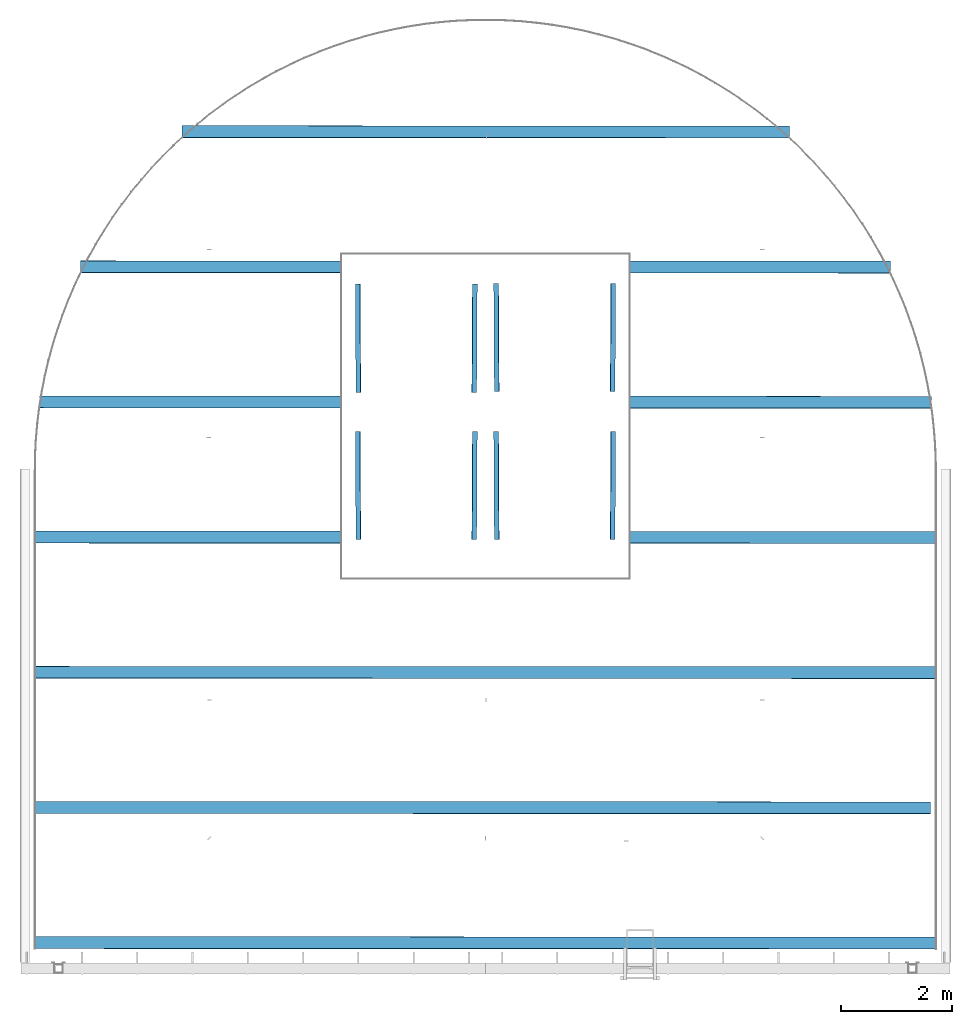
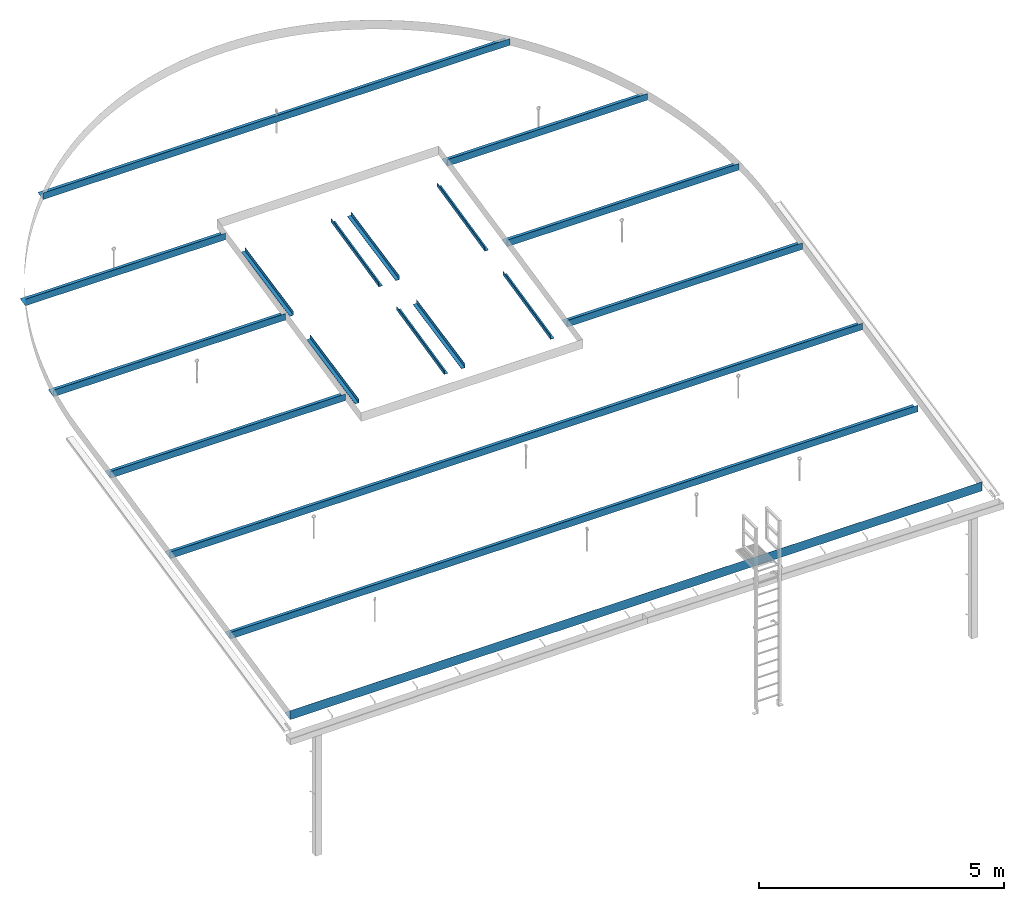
# One storey, part 1 of 7: 18 beams.
"""IFC4 building model written with IfcOpenShell, lengths in millimetres."""

from ifc_helpers import new_model, entity, si_unit, converted_unit, derived_unit, direction, frame, origin_with_axes, place, context, subcontext, project, spatial, line, indexed_curve, outline, composite_profile, extrude, clip, halfspace, material, material_profile, profile_set, type_object, element, save


model = new_model("IFC4")

# Units and contexts
model_context = context("Model", 3, precision=0.01, world=origin_with_axes(), true_north=direction((0.0, 1.0)))
body_context = subcontext(model_context, "Body", "Model", "MODEL_VIEW")
ifc_project = project(units=[si_unit("LENGTHUNIT", "METRE", prefix="MILLI"), si_unit("AREAUNIT", "SQUARE_METRE"), si_unit("VOLUMEUNIT", "CUBIC_METRE"), converted_unit("PLANEANGLEUNIT", "DEGREE", entity("IfcPlaneAngleMeasure", 0.0174532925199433), si_unit("PLANEANGLEUNIT", "RADIAN"), dimensions=[0, 0, 0, 0, 0, 0, 0]), converted_unit("TIMEUNIT", "Year", entity("IfcTimeMeasure", 31557600.0), si_unit("TIMEUNIT", "SECOND"), dimensions=[0, 0, 1, 0, 0, 0, 0]), si_unit("MASSUNIT", "GRAM", prefix="KILO"), si_unit("THERMODYNAMICTEMPERATUREUNIT", "DEGREE_CELSIUS"), si_unit("LUMINOUSINTENSITYUNIT", "LUMEN"), si_unit("ENERGYUNIT", "JOULE", prefix="MEGA"), derived_unit("THERMALCONDUCTANCEUNIT", [(si_unit("POWERUNIT", "WATT"), 1), (si_unit("LENGTHUNIT", "METRE"), -1), (si_unit("THERMODYNAMICTEMPERATUREUNIT", "KELVIN"), -1)]), derived_unit("SPECIFICHEATCAPACITYUNIT", [(si_unit("ENERGYUNIT", "JOULE"), 1), (si_unit("MASSUNIT", "GRAM", prefix="KILO"), -1), (si_unit("THERMODYNAMICTEMPERATUREUNIT", "KELVIN"), -1)]), derived_unit("MASSDENSITYUNIT", [(si_unit("MASSUNIT", "GRAM", prefix="KILO"), 1), (si_unit("VOLUMEUNIT", "CUBIC_METRE"), -1)])], contexts=[model_context])

# Site, building, storey
site_placement = place(None, origin_with_axes())
site = spatial("IfcSite", under=ifc_project, at=site_placement, Name="Exteriér", CompositionType="ELEMENT")
building_placement = place(site_placement, origin_with_axes())
building = spatial("IfcBuilding", under=site, at=building_placement, Name="Univerzitní lezecké centrum", CompositionType="ELEMENT")
storey_placement = place(building_placement, frame((0.0, 0.0, 12800.0), z_axis=(0.0, 0.0, 1.0), x_axis=(1.0, 0.0, 0.0)))
storey = spatial("IfcBuildingStorey", under=building, at=storey_placement, Name="Střecha", CompositionType="ELEMENT", Elevation=12800.0)

# Beams
ifc_material_1 = material(Name="Hliníková kačírková lišta")
ifc_material_profile_1 = material_profile(ifc_material_1, outline(indexed_curve([(-1.990232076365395e-06, 0.0), (220.0832125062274, 46.7801335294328), (219.6317191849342, 48.90423387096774), (217.6768328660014, 48.48178554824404), (206.3594087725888, 46.07655255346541), (1.999999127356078, 2.645183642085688)], segments=[line(1, 2, 3, 4, 5, 6, 1)])), Name="Hliníková kačírková lišta 1")
ifc_material_profile_2 = material_profile(ifc_material_1, outline(indexed_curve([(1.999999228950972, 222.1715728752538), (4.121320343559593, 220.0502525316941), (5.535533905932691, 221.4644660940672), (1.999999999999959, 225.0), (0.0, 225.0), (-1.990232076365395e-06, 222.1715728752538), (-1.990232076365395e-06, 0.0), (1.999999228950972, 2.645180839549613)], segments=[line(1, 2, 3, 4, 5, 6, 7, 8, 1)])), Name="Hliníková kačírková lišta 2")
ifc_profile_set_1 = profile_set([ifc_material_profile_1, ifc_material_profile_2], Name="Kačírková lišta vysoká", composite=composite_profile([outline(indexed_curve([(-1.990232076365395e-06, 0.0), (220.0832125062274, 46.7801335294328), (219.6317191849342, 48.90423387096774), (217.6768328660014, 48.48178554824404), (206.3594087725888, 46.07655255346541), (1.999999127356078, 2.645183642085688)], segments=[line(1, 2, 3, 4, 5, 6, 1)])), outline(indexed_curve([(1.999999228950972, 222.1715728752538), (4.121320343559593, 220.0502525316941), (5.535533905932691, 221.4644660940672), (1.999999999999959, 225.0), (0.0, 225.0), (-1.990232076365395e-06, 222.1715728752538), (-1.990232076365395e-06, 0.0), (1.999999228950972, 2.645180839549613)], segments=[line(1, 2, 3, 4, 5, 6, 7, 8, 1)]))]))
beam_type_1 = type_object("IfcBeamType", Name="Kačírková lišta vysoká 220 x 225", PredefinedType="BEAM")
beam_1_placement = place(storey_placement, frame((-5697.142728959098, -249.9993350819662, 50.13690724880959), z_axis=(0.0, 0.0, 1.0), x_axis=(-0.0004603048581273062, -0.9999998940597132, 0.0)))
element("IfcBeam", 1, at=beam_1_placement, inside=storey, type_object=beam_type_1, material=ifc_profile_set_1, Name="ZV07", PredefinedType="BEAM", context=body_context, shape_type="SweptSolid", body=[
    extrude(composite_profile([outline(indexed_curve([(-1.990232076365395e-06, 0.0), (220.0832125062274, 46.7801335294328), (219.6317191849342, 48.90423387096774), (217.6768328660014, 48.48178554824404), (206.3594087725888, 46.07655255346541), (1.999999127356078, 2.645183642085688)], segments=[line(1, 2, 3, 4, 5, 6, 1)])), outline(indexed_curve([(1.999999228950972, 222.1715728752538), (4.121320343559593, 220.0502525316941), (5.535533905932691, 221.4644660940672), (1.999999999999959, 225.0), (0.0, 225.0), (-1.990232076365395e-06, 222.1715728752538), (-1.990232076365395e-06, 0.0), (1.999999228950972, 2.645180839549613)], segments=[line(1, 2, 3, 4, 5, 6, 7, 8, 1)]))]), frame((0.0, 16294.99610938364, 0.0), z_axis=(0.0, 1.0, 0.0), x_axis=(-1.0, 0.0, 0.0)), (0.0, 0.0, -1.0), 16294.99610938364),
])
ifc_material_profile_3 = material_profile(ifc_material_1, outline(indexed_curve([(0.0, 0.0), (220.0832097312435, 46.78013104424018), (219.6317178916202, 48.90423599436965), (217.6768317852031, 48.48178411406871), (197.8620755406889, 44.27066534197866), (1.999998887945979, 2.64518118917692)], segments=[line(1, 2, 3, 4, 5, 6, 1)])), Name="Hliníková kačírková lišta 1")
ifc_material_profile_4 = material_profile(ifc_material_1, outline(indexed_curve([(0.0, 165.0), (0.0, 0.0), (1.999999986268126, 2.645180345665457), (2.000000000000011, 162.1715728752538), (4.121320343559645, 160.0502525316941), (5.535533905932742, 161.4644660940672), (2.000000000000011, 165.0)], segments=[line(1, 2, 3, 4, 5, 6, 7, 1)])), Name="Hliníková kačírková lišta 2")
ifc_profile_set_2 = profile_set([ifc_material_profile_3, ifc_material_profile_4], Name="Kačírková lišta", composite=composite_profile([outline(indexed_curve([(0.0, 0.0), (220.0832097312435, 46.78013104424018), (219.6317178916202, 48.90423599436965), (217.6768317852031, 48.48178411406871), (197.8620755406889, 44.27066534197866), (1.999998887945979, 2.64518118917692)], segments=[line(1, 2, 3, 4, 5, 6, 1)])), outline(indexed_curve([(0.0, 165.0), (0.0, 0.0), (1.999999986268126, 2.645180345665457), (2.000000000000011, 162.1715728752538), (4.121320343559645, 160.0502525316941), (5.535533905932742, 161.4644660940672), (2.000000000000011, 165.0)], segments=[line(1, 2, 3, 4, 5, 6, 7, 1)]))]))
beam_type_2 = type_object("IfcBeamType", Name="Kačírková lišta 220 x 165", PredefinedType="BEAM")
beam_2_placement = place(storey_placement, frame((5059.702440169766, 11971.28275113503, 2651.703567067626), z_axis=(0.0, 0.0, 1.0), x_axis=(-0.000463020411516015, -0.9999998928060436, 0.0)))
element("IfcBeam", 2, at=beam_2_placement, inside=storey, type_object=beam_type_2, material=ifc_profile_set_2, Name="ZV08", PredefinedType="BEAM", context=body_context, shape_type="SweptSolid", body=[
    extrude(composite_profile([outline(indexed_curve([(0.0, 0.0), (220.0832097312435, 46.78013104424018), (219.6317178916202, 48.90423599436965), (217.6768317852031, 48.48178411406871), (197.8620755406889, 44.27066534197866), (1.999998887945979, 2.64518118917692)], segments=[line(1, 2, 3, 4, 5, 6, 1)])), outline(indexed_curve([(0.0, 165.0), (0.0, 0.0), (1.999999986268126, 2.645180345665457), (2.000000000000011, 162.1715728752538), (4.121320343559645, 160.0502525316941), (5.535533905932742, 161.4644660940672), (2.000000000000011, 165.0)], segments=[line(1, 2, 3, 4, 5, 6, 7, 1)]))]), frame((0.0, 4714.878007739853, 0.0), z_axis=(0.0, 1.0, 0.0), x_axis=(-1.0, 0.0, 0.0)), (0.0, 0.0, -1.0), 4714.878007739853),
])
beam_3_placement = place(storey_placement, frame((5059.702440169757, 9525.923328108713, 2131.927190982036), z_axis=(0.0, 0.0, 1.0), x_axis=(-0.0004630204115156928, -0.9999998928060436, 0.0)))
element("IfcBeam", 3, at=beam_3_placement, inside=storey, type_object=beam_type_2, material=ifc_profile_set_2, Name="ZV08", PredefinedType="BEAM", context=body_context, shape_type="SweptSolid", body=[
    extrude(composite_profile([outline(indexed_curve([(0.0, 0.0), (220.0832097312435, 46.78013104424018), (219.6317178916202, 48.90423599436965), (217.6768317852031, 48.48178411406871), (197.8620755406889, 44.27066534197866), (1.999998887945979, 2.64518118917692)], segments=[line(1, 2, 3, 4, 5, 6, 1)])), outline(indexed_curve([(0.0, 165.0), (0.0, 0.0), (1.999999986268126, 2.645180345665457), (2.000000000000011, 162.1715728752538), (4.121320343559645, 160.0502525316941), (5.535533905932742, 161.4644660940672), (2.000000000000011, 165.0)], segments=[line(1, 2, 3, 4, 5, 6, 7, 1)]))]), frame((0.0, 5462.355018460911, 0.0), z_axis=(0.0, 1.0, 0.0), x_axis=(-1.0, 0.0, 0.0)), (0.0, 0.0, -1.0), 5462.355018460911),
])
beam_4_placement = place(storey_placement, frame((5059.702440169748, 7080.581565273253, 1612.020054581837), z_axis=(0.0, 0.0, 1.0), x_axis=(-0.0004630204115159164, -0.9999998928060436, 0.0)))
element("IfcBeam", 4, at=beam_4_placement, inside=storey, type_object=beam_type_2, material=ifc_profile_set_2, Name="ZV08", PredefinedType="BEAM", context=body_context, shape_type="SweptSolid", body=[
    extrude(composite_profile([outline(indexed_curve([(0.0, 0.0), (220.0832097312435, 46.78013104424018), (219.6317178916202, 48.90423599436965), (217.6768317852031, 48.48178411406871), (197.8620755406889, 44.27066534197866), (1.999998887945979, 2.64518118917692)], segments=[line(1, 2, 3, 4, 5, 6, 1)])), outline(indexed_curve([(0.0, 165.0), (0.0, 0.0), (1.999999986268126, 2.645180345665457), (2.000000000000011, 162.1715728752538), (4.121320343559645, 160.0502525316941), (5.535533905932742, 161.4644660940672), (2.000000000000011, 165.0)], segments=[line(1, 2, 3, 4, 5, 6, 7, 1)]))]), frame((0.0, 5538.146901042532, 0.0), z_axis=(0.0, 1.0, 0.0), x_axis=(-1.0, 0.0, 0.0)), (0.0, 0.0, -1.0), 5538.146901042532),
])
beam_5_placement = place(storey_placement, frame((-3042.11273893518, 14419.31017375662, 3176.394906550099), z_axis=(0.0, 0.0, 1.0), x_axis=(-0.0004630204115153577, -0.9999998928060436, 0.0)))
element("IfcBeam", 5, at=beam_5_placement, inside=storey, type_object=beam_type_2, material=ifc_profile_set_2, Name="ZV08", PredefinedType="BEAM", context=body_context, shape_type="SweptSolid", body=[
    extrude(composite_profile([outline(indexed_curve([(0.0, 0.0), (220.0832097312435, 46.78013104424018), (219.6317178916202, 48.90423599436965), (217.6768317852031, 48.48178411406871), (197.8620755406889, 44.27066534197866), (1.999998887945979, 2.64518118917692)], segments=[line(1, 2, 3, 4, 5, 6, 1)])), outline(indexed_curve([(0.0, 165.0), (0.0, 0.0), (1.999999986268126, 2.645180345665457), (2.000000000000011, 162.1715728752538), (4.121320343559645, 160.0502525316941), (5.535533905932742, 161.4644660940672), (2.000000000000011, 165.0)], segments=[line(1, 2, 3, 4, 5, 6, 7, 1)]))]), frame((0.0, 10989.21879596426, 0.0), z_axis=(0.0, 1.0, 0.0), x_axis=(-1.0, 0.0, 0.0)), (0.0, 0.0, -1.0), 10989.21879596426),
])
beam_6_placement = place(storey_placement, frame((-5697.510019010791, 2194.804843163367, 572.55331504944), z_axis=(0.0, 0.0, 1.0), x_axis=(-0.0004630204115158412, -0.9999998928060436, 0.0)))
element("IfcBeam", 6, at=beam_6_placement, inside=storey, type_object=beam_type_2, material=ifc_profile_set_2, Name="ZV08", PredefinedType="BEAM", context=body_context, shape_type="SweptSolid", body=[
    extrude(composite_profile([outline(indexed_curve([(0.0, 0.0), (220.0832097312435, 46.78013104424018), (219.6317178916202, 48.90423599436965), (217.6768317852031, 48.48178411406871), (197.8620755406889, 44.27066534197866), (1.999998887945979, 2.64518118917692)], segments=[line(1, 2, 3, 4, 5, 6, 1)])), outline(indexed_curve([(0.0, 165.0), (0.0, 0.0), (1.999999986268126, 2.645180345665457), (2.000000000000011, 162.1715728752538), (4.121320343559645, 160.0502525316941), (5.535533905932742, 161.4644660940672), (2.000000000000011, 165.0)], segments=[line(1, 2, 3, 4, 5, 6, 7, 1)]))]), frame((0.0, 16195.2963674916, 0.0), z_axis=(0.0, 1.0, 0.0), x_axis=(-1.0, 0.0, 0.0)), (0.0, 0.0, -1.0), 16195.2963674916),
])
beam_7_placement = place(storey_placement, frame((-5697.871723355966, 4640.187870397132, 1092.267454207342), z_axis=(0.0, 0.0, 1.0), x_axis=(-0.0004630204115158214, -0.9999998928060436, 0.0)))
element("IfcBeam", 7, at=beam_7_placement, inside=storey, type_object=beam_type_2, material=ifc_profile_set_2, Name="ZV08", PredefinedType="BEAM", context=body_context, shape_type="SweptSolid", body=[
    extrude(composite_profile([outline(indexed_curve([(0.0, 0.0), (220.0832097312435, 46.78013104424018), (219.6317178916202, 48.90423599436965), (217.6768317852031, 48.48178411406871), (197.8620755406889, 44.27066534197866), (1.999998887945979, 2.64518118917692)], segments=[line(1, 2, 3, 4, 5, 6, 1)])), outline(indexed_curve([(0.0, 165.0), (0.0, 0.0), (1.999999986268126, 2.645180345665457), (2.000000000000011, 162.1715728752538), (4.121320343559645, 160.0502525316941), (5.535533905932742, 161.4644660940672), (2.000000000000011, 165.0)], segments=[line(1, 2, 3, 4, 5, 6, 7, 1)]))]), frame((0.0, 16295.72318665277, 0.0), z_axis=(0.0, 1.0, 0.0), x_axis=(-1.0, 0.0, 0.0)), (0.0, 0.0, -1.0), 16295.72318665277),
])
beam_8_placement = place(storey_placement, frame((-5698.233426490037, 7085.562709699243, 1612.020054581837), z_axis=(0.0, 0.0, 1.0), x_axis=(-0.0004630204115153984, -0.9999998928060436, 0.0)))
element("IfcBeam", 8, at=beam_8_placement, inside=storey, type_object=beam_type_2, material=ifc_profile_set_2, Name="ZV08", PredefinedType="BEAM", context=body_context, shape_type="SweptSolid", body=[
    extrude(composite_profile([outline(indexed_curve([(0.0, 0.0), (220.0832097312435, 46.78013104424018), (219.6317178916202, 48.90423599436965), (217.6768317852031, 48.48178411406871), (197.8620755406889, 44.27066534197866), (1.999998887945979, 2.64518118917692)], segments=[line(1, 2, 3, 4, 5, 6, 1)])), outline(indexed_curve([(0.0, 165.0), (0.0, 0.0), (1.999999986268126, 2.645180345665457), (2.000000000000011, 162.1715728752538), (4.121320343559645, 160.0502525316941), (5.535533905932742, 161.4644660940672), (2.000000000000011, 165.0)], segments=[line(1, 2, 3, 4, 5, 6, 7, 1)]))]), frame((0.0, 5538.085618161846, 0.0), z_axis=(0.0, 1.0, 0.0), x_axis=(-1.0, 0.0, 0.0)), (0.0, 0.0, -1.0), 5538.085618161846),
])
beam_9_placement = place(storey_placement, frame((-5620.703333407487, 9530.86857451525, 2131.927190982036), z_axis=(0.0, 0.0, 1.0), x_axis=(-0.0004630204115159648, -0.9999998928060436, 0.0)))
element("IfcBeam", 9, at=beam_9_placement, inside=storey, type_object=beam_type_2, material=ifc_profile_set_2, Name="ZV08", PredefinedType="BEAM", context=body_context, shape_type="SweptSolid", body=[
    extrude(composite_profile([outline(indexed_curve([(0.0, 0.0), (220.0832097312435, 46.78013104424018), (219.6317178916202, 48.90423599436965), (217.6768317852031, 48.48178411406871), (197.8620755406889, 44.27066534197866), (1.999998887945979, 2.64518118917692)], segments=[line(1, 2, 3, 4, 5, 6, 1)])), outline(indexed_curve([(0.0, 165.0), (0.0, 0.0), (1.999999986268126, 2.645180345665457), (2.000000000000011, 162.1715728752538), (4.121320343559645, 160.0502525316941), (5.535533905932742, 161.4644660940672), (2.000000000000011, 165.0)], segments=[line(1, 2, 3, 4, 5, 6, 7, 1)]))]), frame((0.0, 5460.555516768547, 0.0), z_axis=(0.0, 1.0, 0.0), x_axis=(-1.0, 0.0, 0.0)), (0.0, 0.0, -1.0), 5460.555516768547),
])
beam_10_placement = place(storey_placement, frame((-4872.826403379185, 11975.88171522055, 2651.703567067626), z_axis=(0.0, 0.0, 1.0), x_axis=(-0.000463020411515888, -0.9999998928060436, 0.0)))
element("IfcBeam", 10, at=beam_10_placement, inside=storey, type_object=beam_type_2, material=ifc_profile_set_2, Name="ZV08", PredefinedType="BEAM", context=body_context, shape_type="SweptSolid", body=[
    extrude(composite_profile([outline(indexed_curve([(0.0, 0.0), (220.0832097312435, 46.78013104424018), (219.6317178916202, 48.90423599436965), (217.6768317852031, 48.48178411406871), (197.8620755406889, 44.27066534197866), (1.999998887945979, 2.64518118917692)], segments=[line(1, 2, 3, 4, 5, 6, 1)])), outline(indexed_curve([(0.0, 165.0), (0.0, 0.0), (1.999999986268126, 2.645180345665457), (2.000000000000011, 162.1715728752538), (4.121320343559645, 160.0502525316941), (5.535533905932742, 161.4644660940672), (2.000000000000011, 165.0)], segments=[line(1, 2, 3, 4, 5, 6, 7, 1)]))]), frame((0.0, 4712.67850657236, 0.0), z_axis=(0.0, 1.0, 0.0), x_axis=(-1.0, 0.0, 0.0)), (0.0, 0.0, -1.0), 4712.67850657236),
])
ifc_material_2 = material(Name="Ocel - nerez")
ifc_material_profile_5 = material_profile(ifc_material_2, outline(indexed_curve([(0.0, 90.0), (0.0, 0.0), (90.00000000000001, 0.0), (90.00000000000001, 6.99999955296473), (6.999999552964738, 6.99999955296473), (6.999999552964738, 90.0)], segments=[line(1, 2, 3, 4, 5, 6, 1)])), Name="Ocel - nerez")
ifc_profile_set_3 = profile_set([ifc_material_profile_5], Name="L profil 90x90x7")
beam_type_3 = type_object("IfcBeamType", Name="L profil 90x90x7 90 x 90", PredefinedType="BEAM")
for number, where, z_axis, x_axis, name in (
    (11, (2200.116936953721, 9814.9389995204, 1958.885258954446), (0.0, 0.0, 1.0), (0.9999834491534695, -0.005753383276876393, 0.0), "ZV03"),
    (12, (4703.60536457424, 9828.231432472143, 1961.710652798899), (0.0, 0.0, 1.0), (0.9999834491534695, -0.005753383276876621, 0.0), "ZV03"),
):
    element("IfcBeam", number, at=place(storey_placement, frame(where, z_axis=z_axis, x_axis=x_axis)), inside=storey, type_object=beam_type_3, material=ifc_profile_set_3, Name=name, PredefinedType="BEAM", context=body_context, shape_type="Clipping", body=[
        clip(clip(extrude(outline(indexed_curve([(0.0, 90.0), (0.0, 0.0), (90.00000000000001, 0.0), (90.00000000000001, 6.99999955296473), (6.999999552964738, 6.99999955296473), (6.999999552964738, 90.0)], segments=[line(1, 2, 3, 4, 5, 6, 1)])), frame((0.0, 1982.758039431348, 421.4482314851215), z_axis=(0.0, -0.9781476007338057, -0.2079116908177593), x_axis=(1.0, 0.0, 0.0)), (0.0, 0.0, 1.0), 2054.108067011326), halfspace(frame((0.0, 0.0, 0.0), z_axis=(0.0, 1.0, 0.0), x_axis=(0.0, 0.0, 1.0)), True)), halfspace(frame((0.0, 1956.295201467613, 0.0), z_axis=(0.0, -1.0, 0.0), x_axis=(0.0, 0.0, -1.0)), True)),
    ])
beam_11_placement = place(storey_placement, frame((4703.60536457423, 7149.495386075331, 1392.327729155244), z_axis=(0.0, 0.0, 1.0), x_axis=(0.9999834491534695, -0.005753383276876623, 0.0)))
element("IfcBeam", 13, at=beam_11_placement, inside=storey, type_object=beam_type_3, material=ifc_profile_set_3, Name="ZV03", PredefinedType="BEAM", context=body_context, shape_type="Clipping", body=[
    clip(clip(extrude(outline(indexed_curve([(0.0, 90.0), (0.0, 0.0), (90.00000000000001, 0.0), (90.00000000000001, 6.99999955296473), (6.999999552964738, 6.99999955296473), (6.999999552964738, 90.0)], segments=[line(1, 2, 3, 4, 5, 6, 1)])), frame((0.0, 1982.758039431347, 421.4482314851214), z_axis=(0.0, -0.9781476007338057, -0.2079116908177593), x_axis=(1.0, 0.0, 0.0)), (0.0, 0.0, 1.0), 2054.108067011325), halfspace(frame((0.0, 0.0, 0.0), z_axis=(0.0, 1.0, 0.0), x_axis=(0.0, 0.0, 1.0)), True)), halfspace(frame((0.0, 1956.295201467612, 0.0), z_axis=(0.0, -1.0, 0.0), x_axis=(0.0, 0.0, -1.0)), True)),
])
beam_12_placement = place(storey_placement, frame((2699.437101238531, 7149.495386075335, 1392.327729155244), z_axis=(0.0, 0.0, 1.0), x_axis=(0.9999834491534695, 0.00575338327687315, 0.0)))
element("IfcBeam", 14, at=beam_12_placement, inside=storey, type_object=beam_type_3, material=ifc_profile_set_3, Name="ZV03", PredefinedType="BEAM", context=body_context, shape_type="Clipping", body=[
    clip(clip(extrude(outline(indexed_curve([(0.0, 90.0), (0.0, 0.0), (90.00000000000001, 0.0), (90.00000000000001, 6.99999955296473), (6.999999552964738, 6.99999955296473), (6.999999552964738, 90.0)], segments=[line(1, 2, 3, 4, 5, 6, 1)])), frame((0.0, 1982.758039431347, 421.4482314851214), z_axis=(0.0, 0.9781476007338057, 0.2079116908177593), x_axis=(-1.0, 0.0, 0.0)), (0.0, 0.0, -1.0), 2054.108067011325), halfspace(frame((0.0, 0.0, 0.0), z_axis=(0.0, 1.0, 0.0), x_axis=(0.0, 0.0, 1.0)), True)), halfspace(frame((0.0, 1956.295201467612, 0.0), z_axis=(0.0, -1.0, 0.0), x_axis=(0.0, 0.0, -1.0)), True)),
])
for number, where, z_axis, x_axis, name in (
    (15, (2699.437101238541, 9828.231432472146, 1961.710652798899), (0.0, 0.0, 1.0), (0.9999834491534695, 0.005753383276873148, 0.0), "ZV03"),
    (16, (195.9486736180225, 9814.938999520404, 1958.885258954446), (0.0, 0.0, 1.0), (0.9999834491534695, 0.005753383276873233, 0.0), "ZV03"),
    (17, (195.948673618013, 7149.495386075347, 1392.327729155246), (0.0, 0.0, 1.0), (0.9999834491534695, 0.005753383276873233, 0.0), "ZV03"),
):
    element("IfcBeam", number, at=place(storey_placement, frame(where, z_axis=z_axis, x_axis=x_axis)), inside=storey, type_object=beam_type_3, material=ifc_profile_set_3, Name=name, PredefinedType="BEAM", context=body_context, shape_type="Clipping", body=[
        clip(clip(extrude(outline(indexed_curve([(0.0, 90.0), (0.0, 0.0), (90.00000000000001, 0.0), (90.00000000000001, 6.99999955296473), (6.999999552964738, 6.99999955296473), (6.999999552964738, 90.0)], segments=[line(1, 2, 3, 4, 5, 6, 1)])), frame((0.0, 1982.758039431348, 421.4482314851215), z_axis=(0.0, 0.9781476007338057, 0.2079116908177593), x_axis=(-1.0, 0.0, 0.0)), (0.0, 0.0, -1.0), 2054.108067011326), halfspace(frame((0.0, 0.0, 0.0), z_axis=(0.0, 1.0, 0.0), x_axis=(0.0, 0.0, 1.0)), True)), halfspace(frame((0.0, 1956.295201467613, 0.0), z_axis=(0.0, -1.0, 0.0), x_axis=(0.0, 0.0, -1.0)), True)),
    ])
beam_13_placement = place(storey_placement, frame((2200.116936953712, 7149.495386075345, 1392.327729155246), z_axis=(0.0, 0.0, 1.0), x_axis=(0.9999834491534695, -0.005753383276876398, 0.0)))
element("IfcBeam", 18, at=beam_13_placement, inside=storey, type_object=beam_type_3, material=ifc_profile_set_3, Name="ZV03", PredefinedType="BEAM", context=body_context, shape_type="Clipping", body=[
    clip(clip(extrude(outline(indexed_curve([(0.0, 90.0), (0.0, 0.0), (90.00000000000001, 0.0), (90.00000000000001, 6.99999955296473), (6.999999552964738, 6.99999955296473), (6.999999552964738, 90.0)], segments=[line(1, 2, 3, 4, 5, 6, 1)])), frame((0.0, 1982.758039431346, 421.4482314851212), z_axis=(0.0, -0.9781476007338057, -0.2079116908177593), x_axis=(1.0, 0.0, 0.0)), (0.0, 0.0, 1.0), 2054.108067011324), halfspace(frame((0.0, 0.0, 0.0), z_axis=(0.0, 1.0, 0.0), x_axis=(0.0, 0.0, 1.0)), True)), halfspace(frame((0.0, 1956.295201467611, 0.0), z_axis=(0.0, -1.0, 0.0), x_axis=(0.0, 0.0, -1.0)), True)),
])

save(model, "model.ifc")
